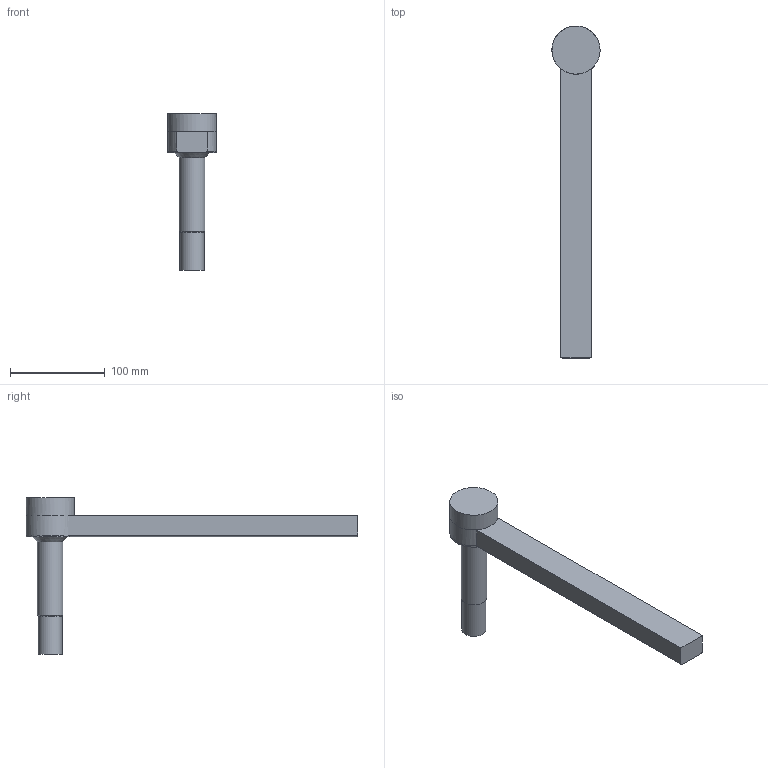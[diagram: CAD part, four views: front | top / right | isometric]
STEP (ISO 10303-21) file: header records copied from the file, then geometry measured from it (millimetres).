
FILE_DESCRIPTION(/* description */ (''),/* implementation_level */ '2;1');
FILE_NAME(/* name */ 'B0873TRUPas.stp',/* time_stamp */ '2019-10-03T11:11:05-04:00',/* author */ (''),/* organization */ (''),/* preprocessor_version */ 'ST-DEVELOPER v16',/* originating_system */ 'SIEMENS PLM Software NX 11.0',/* authorisation */ '');
FILE_SCHEMA (('AUTOMOTIVE_DESIGN { 1 0 10303 214 3 1 1 1 }'));
Length unit declared in the file: inch
Products named in the file (3): B08XX_SubSolid; B0873TRUPd; B0873TRUPas
Assembly tree (2 placements, depth 2):
  B0873TRUPas
    B0873TRUPd
    B08XX_SubSolid
Bounding box: 50.91 x 350.87 x 165.89 mm (x, y, z)
Volume: 461761 mm3; surface area: 74776.2 mm2
Topology: 2 solids, 3 shells, 34 faces, 72 edges, 45 vertices
Faces by surface type: plane 13, cylinder 10, cone 6, torus 3, sphere 1, revolution 1
Full cylindrical faces by diameter (mm): 8.731 x2, 25.4 x2, 26.987 x1, 50.927 x1
Entity records: 874 total; most frequent: CARTESIAN_POINT 167, DIRECTION 142, ORIENTED_EDGE 96, AXIS2_PLACEMENT_3D 62, EDGE_LOOP 54, EDGE_CURVE 48, FACE_BOUND 45, VERTEX_POINT 40
